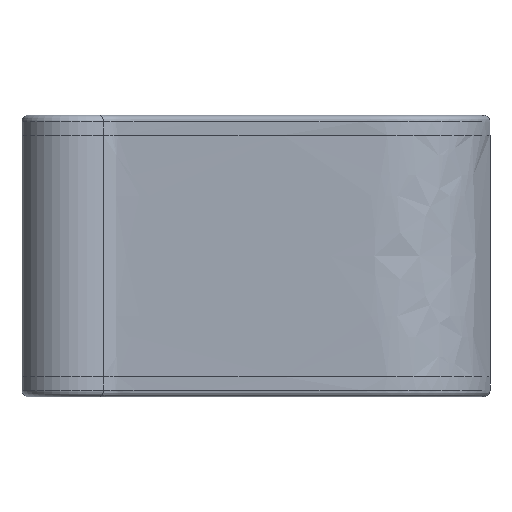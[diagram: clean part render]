
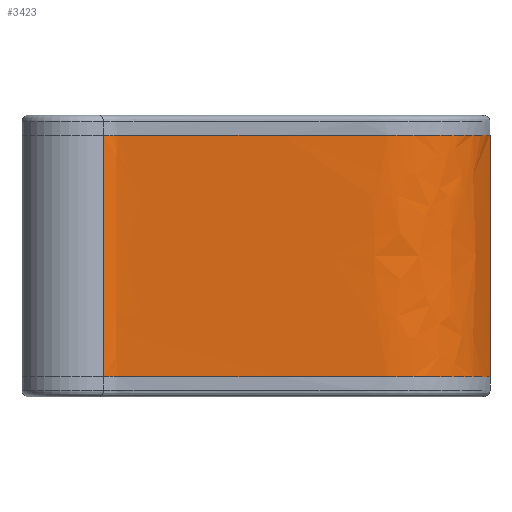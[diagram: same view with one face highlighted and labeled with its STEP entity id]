
A CAD part, front view. The second image highlights one B-rep face of the part: STEP entity #3423.
In plain terms, the highlighted free-form (B-spline) face has degree [3, 1] with [12, 2] control points.
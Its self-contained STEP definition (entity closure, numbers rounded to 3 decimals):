
#62 = CARTESIAN_POINT ( 'NONE',  ( 12.063, -6.04, -18. ) ) ;
#90 = CARTESIAN_POINT ( 'NONE',  ( 6.313, -5.974, 18. ) ) ;
#229 = VECTOR ( 'NONE', #2702, 1000. ) ;
#480 = CARTESIAN_POINT ( 'NONE',  ( 12.063, -6.04, 18. ) ) ;
#594 = CARTESIAN_POINT ( 'NONE',  ( 46.028, -6.02, 18. ) ) ;
#841 = CARTESIAN_POINT ( 'NONE',  ( 61.743, 7.763, -18. ) ) ;
#1393 = CARTESIAN_POINT ( 'NONE',  ( 6.313, -5.974, 18. ) ) ;
#1496 = VERTEX_POINT ( 'NONE', #2067 ) ;
#1517 = EDGE_CURVE ( 'NONE', #2193, #1925, #5309, .T. ) ;
#1628 = CARTESIAN_POINT ( 'NONE',  ( 4.124, -6.855, -18. ) ) ;
#1681 = CARTESIAN_POINT ( 'NONE',  ( 5.424, -6.073, -18. ) ) ;
#1768 = CARTESIAN_POINT ( 'NONE',  ( 61.365, 6.213, -18. ) ) ;
#1916 = ORIENTED_EDGE ( 'NONE', *, *, #10429, .T. ) ;
#1925 = VERTEX_POINT ( 'NONE', #8682 ) ;
#2067 = CARTESIAN_POINT ( 'NONE',  ( 4.124, -6.855, 18. ) ) ;
#2143 = CARTESIAN_POINT ( 'NONE',  ( 61.743, 7.763, 18. ) ) ;
#2193 = VERTEX_POINT ( 'NONE', #841 ) ;
#2216 = CARTESIAN_POINT ( 'NONE',  ( 61.743, 7.763, -18. ) ) ;
#2366 = B_SPLINE_CURVE_WITH_KNOTS ( 'NONE', 3,
 ( #5569, #8925, #1393, #480, #7256, #8160, #594, #8200, #9742, #3134, #9783, #2143 ),
 .UNSPECIFIED., .F., .F.,
 ( 4, 1, 1, 1, 1, 1, 1, 1, 1, 4 ),
 ( 0., 0.064, 0.116, 0.392, 0.641, 0.677, 0.756, 0.834, 0.921, 0.984 ),
 .UNSPECIFIED. ) ;
#2599 = CARTESIAN_POINT ( 'NONE',  ( 61.365, 6.213, -18. ) ) ;
#2702 = DIRECTION ( 'NONE',  ( 0., 0., 1. ) ) ;
#2943 = VERTEX_POINT ( 'NONE', #3459 ) ;
#3134 = CARTESIAN_POINT ( 'NONE',  ( 59.99, 2.662, 18. ) ) ;
#3141 = DIRECTION ( 'NONE',  ( 0., 0., 1. ) ) ;
#3211 = B_SPLINE_CURVE_WITH_KNOTS ( 'NONE', 3,
 ( #5043, #1681, #5887, #4300, #4228, #9211, #3349, #3308, #10158, #9330, #1768, #10090 ),
 .UNSPECIFIED., .F., .F.,
 ( 4, 1, 1, 1, 1, 1, 1, 1, 1, 4 ),
 ( 0., 0.064, 0.116, 0.392, 0.641, 0.677, 0.756, 0.834, 0.921, 0.984 ),
 .UNSPECIFIED. ) ;
#3308 = CARTESIAN_POINT ( 'NONE',  ( 50.745, -5.171, -18. ) ) ;
#3349 = CARTESIAN_POINT ( 'NONE',  ( 46.028, -6.02, -18. ) ) ;
#3405 = CARTESIAN_POINT ( 'NONE',  ( 61.743, 7.763, 18. ) ) ;
#3423 = ADVANCED_FACE ( 'NONE', ( #7917 ), #8120, .T. ) ;
#3459 = CARTESIAN_POINT ( 'NONE',  ( 4.124, -6.855, -18. ) ) ;
#3486 = CARTESIAN_POINT ( 'NONE',  ( 27.201, -5.969, -18. ) ) ;
#3518 = CARTESIAN_POINT ( 'NONE',  ( 6.313, -5.974, -18. ) ) ;
#3555 = CARTESIAN_POINT ( 'NONE',  ( 61.743, 7.763, -18. ) ) ;
#4228 = CARTESIAN_POINT ( 'NONE',  ( 27.201, -5.969, -18. ) ) ;
#4300 = CARTESIAN_POINT ( 'NONE',  ( 12.063, -6.04, -18. ) ) ;
#4318 = CARTESIAN_POINT ( 'NONE',  ( 50.745, -5.171, -18. ) ) ;
#4798 = ORIENTED_EDGE ( 'NONE', *, *, #10231, .F. ) ;
#4963 = EDGE_LOOP ( 'NONE', ( #4798, #10928, #1916, #9727 ) ) ;
#5043 = CARTESIAN_POINT ( 'NONE',  ( 4.124, -6.855, -18. ) ) ;
#5094 = CARTESIAN_POINT ( 'NONE',  ( 59.99, 2.662, 18. ) ) ;
#5135 = CARTESIAN_POINT ( 'NONE',  ( 46.028, -6.02, 18. ) ) ;
#5309 = LINE ( 'NONE', #2216, #6354 ) ;
#5569 = CARTESIAN_POINT ( 'NONE',  ( 4.124, -6.855, 18. ) ) ;
#5724 = CARTESIAN_POINT ( 'NONE',  ( 5.424, -6.073, -18. ) ) ;
#5887 = CARTESIAN_POINT ( 'NONE',  ( 6.313, -5.974, -18. ) ) ;
#6053 = CARTESIAN_POINT ( 'NONE',  ( 27.201, -5.969, 18. ) ) ;
#6171 = EDGE_CURVE ( 'NONE', #2943, #1496, #7893, .T. ) ;
#6354 = VECTOR ( 'NONE', #3141, 1000. ) ;
#6755 = CARTESIAN_POINT ( 'NONE',  ( 12.063, -6.04, 18. ) ) ;
#6868 = CARTESIAN_POINT ( 'NONE',  ( 46.028, -6.02, -18. ) ) ;
#7256 = CARTESIAN_POINT ( 'NONE',  ( 27.201, -5.969, 18. ) ) ;
#7652 = CARTESIAN_POINT ( 'NONE',  ( 56.319, -1.864, 18. ) ) ;
#7893 = LINE ( 'NONE', #9221, #229 ) ;
#7917 = FACE_OUTER_BOUND ( 'NONE', #4963, .T. ) ;
#8120 = B_SPLINE_SURFACE_WITH_KNOTS ( 'NONE', 3, 1, ( 
 ( #1628, #10137 ),
 ( #5724, #8282 ),
 ( #3518, #90 ),
 ( #62, #6755 ),
 ( #3486, #6053 ),
 ( #9392, #9464 ),
 ( #6868, #5135 ),
 ( #4318, #10254 ),
 ( #10291, #7652 ),
 ( #8504, #5094 ),
 ( #2599, #8538 ),
 ( #3555, #3405 ) ),
 .UNSPECIFIED., .F., .F., .F.,
 ( 4, 1, 1, 1, 1, 1, 1, 1, 1, 4 ),
 ( 2, 2 ),
 ( 0., 0.064, 0.116, 0.392, 0.641, 0.677, 0.756, 0.834, 0.921, 0.984 ),
 ( 0., 1. ),
 .UNSPECIFIED. ) ;
#8160 = CARTESIAN_POINT ( 'NONE',  ( 36.659, -6.032, 18. ) ) ;
#8200 = CARTESIAN_POINT ( 'NONE',  ( 50.745, -5.171, 18. ) ) ;
#8282 = CARTESIAN_POINT ( 'NONE',  ( 5.424, -6.073, 18. ) ) ;
#8504 = CARTESIAN_POINT ( 'NONE',  ( 59.99, 2.662, -18. ) ) ;
#8538 = CARTESIAN_POINT ( 'NONE',  ( 61.365, 6.213, 18. ) ) ;
#8682 = CARTESIAN_POINT ( 'NONE',  ( 61.743, 7.763, 18. ) ) ;
#8925 = CARTESIAN_POINT ( 'NONE',  ( 5.424, -6.073, 18. ) ) ;
#9211 = CARTESIAN_POINT ( 'NONE',  ( 36.659, -6.032, -18. ) ) ;
#9221 = CARTESIAN_POINT ( 'NONE',  ( 4.124, -6.855, -18. ) ) ;
#9330 = CARTESIAN_POINT ( 'NONE',  ( 59.99, 2.662, -18. ) ) ;
#9392 = CARTESIAN_POINT ( 'NONE',  ( 36.659, -6.032, -18. ) ) ;
#9464 = CARTESIAN_POINT ( 'NONE',  ( 36.659, -6.032, 18. ) ) ;
#9727 = ORIENTED_EDGE ( 'NONE', *, *, #1517, .T. ) ;
#9742 = CARTESIAN_POINT ( 'NONE',  ( 56.319, -1.864, 18. ) ) ;
#9783 = CARTESIAN_POINT ( 'NONE',  ( 61.365, 6.213, 18. ) ) ;
#10090 = CARTESIAN_POINT ( 'NONE',  ( 61.743, 7.763, -18. ) ) ;
#10137 = CARTESIAN_POINT ( 'NONE',  ( 4.124, -6.855, 18. ) ) ;
#10158 = CARTESIAN_POINT ( 'NONE',  ( 56.319, -1.864, -18. ) ) ;
#10231 = EDGE_CURVE ( 'NONE', #1496, #1925, #2366, .T. ) ;
#10254 = CARTESIAN_POINT ( 'NONE',  ( 50.745, -5.171, 18. ) ) ;
#10291 = CARTESIAN_POINT ( 'NONE',  ( 56.319, -1.864, -18. ) ) ;
#10429 = EDGE_CURVE ( 'NONE', #2943, #2193, #3211, .T. ) ;
#10928 = ORIENTED_EDGE ( 'NONE', *, *, #6171, .F. ) ;
